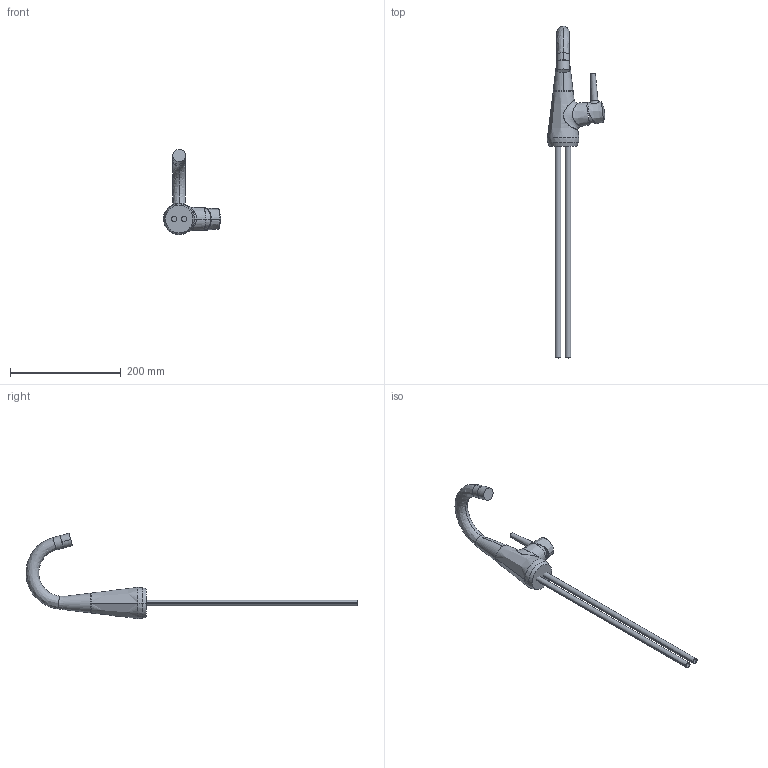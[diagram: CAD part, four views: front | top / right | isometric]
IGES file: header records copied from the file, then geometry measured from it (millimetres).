
Start section:  PTC IGES file: 90817_web.igs
Global section: file name: 90817_web.igs; native system: Creo Parametric by PTC Inc.; preprocessor: 2017380; author: jaj; organization: Unknown; date: 20180703.132432; units: millimetre
Bounding box: 103.65 x 600.12 x 154.48 mm (x, y, z)
Surface area: 99324.8 mm2 (no closed solid volume)
Topology: 0 solids, 0 shells, 47 faces, 316 edges, 368 vertices
Faces by surface type: revolution 36, bspline 11
